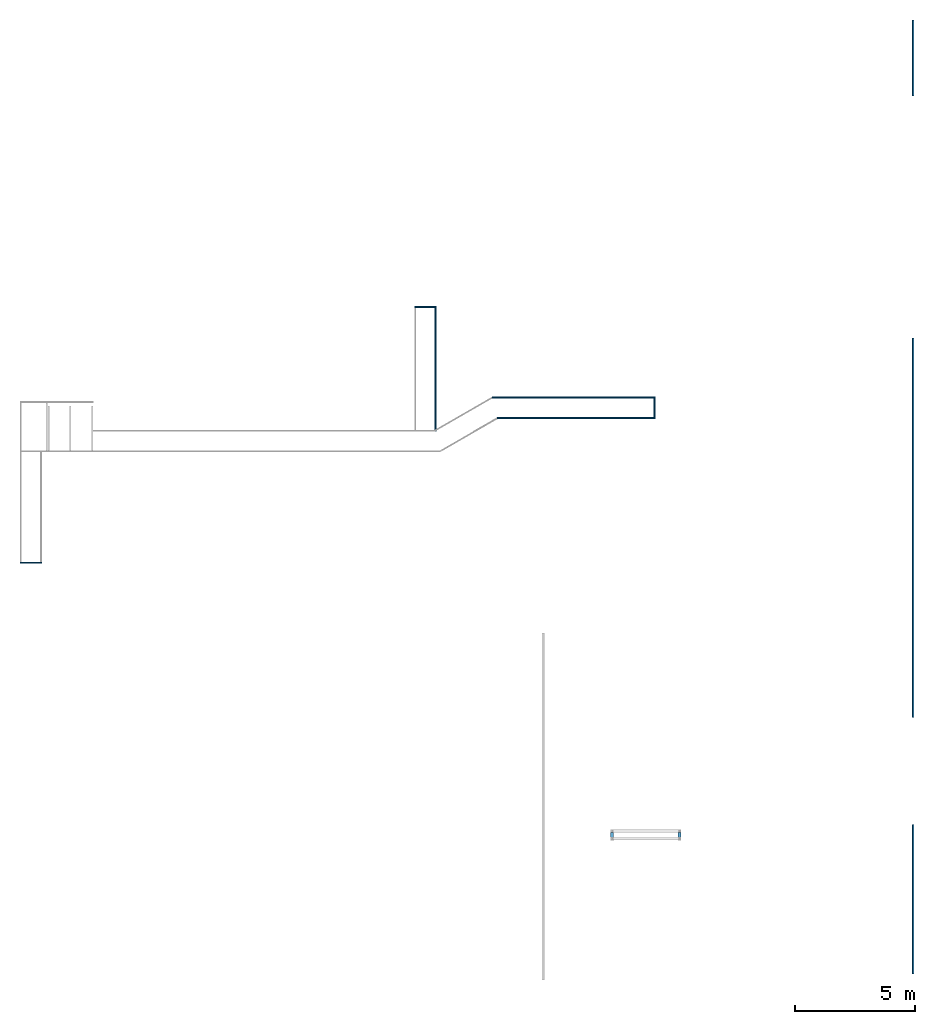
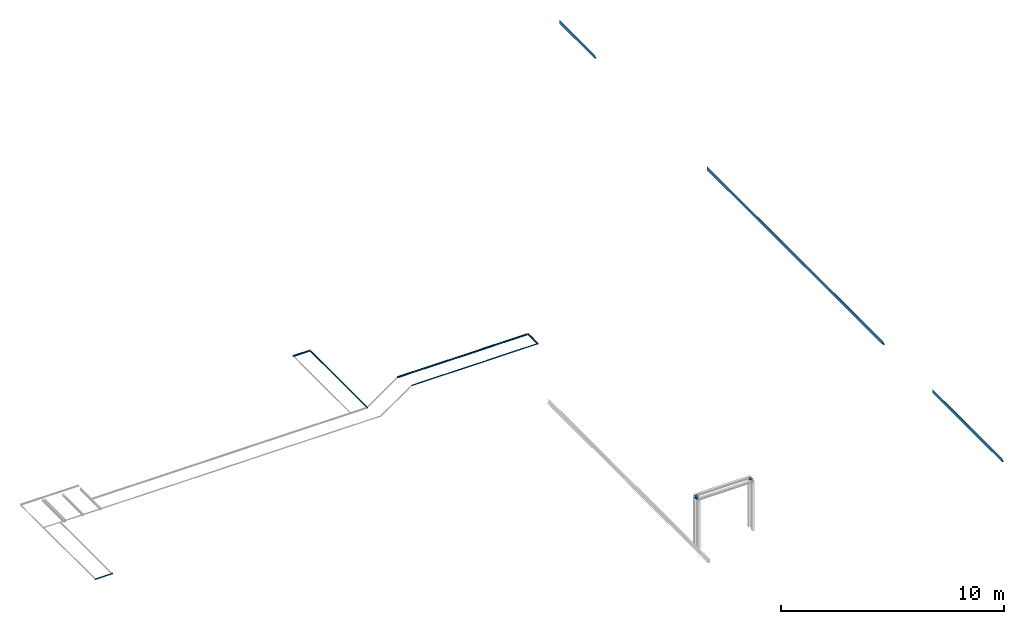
# One storey, part 3 of 3: 13 beams, 1 element without a shape of its own.
"""IFC4X3_ADD2 building model written with IfcOpenShell, lengths in millimetres."""

from ifc_helpers import new_model, si_unit, point, direction, frame, frame_2d, origin_with_axes, place, context, subcontext, project, spatial, polyline, circle_curve, trimmed, segment, composite_curve, i_section, l_section, outline, extrude, boolean, material, type_object, element, aggregate, save


model = new_model("IFC4X3_ADD2")

# Units and contexts
model_context = context("Model", 3, precision=1e-05, world=origin_with_axes(), true_north=direction((0.0, 1.0)))
body_context = subcontext(model_context, "Body", "Model", "MODEL_VIEW")
ifc_project = project(units=[si_unit("LENGTHUNIT", "METRE", prefix="MILLI"), si_unit("AREAUNIT", "SQUARE_METRE"), si_unit("VOLUMEUNIT", "CUBIC_METRE"), si_unit("PLANEANGLEUNIT", "RADIAN"), si_unit("TIMEUNIT", "SECOND"), si_unit("MASSUNIT", "GRAM")], contexts=[model_context])

# Site, building, storey
site_placement = place(None, origin_with_axes())
site = spatial("IfcSite", under=ifc_project, at=site_placement, Name="Site", CompositionType="ELEMENT")
building_placement = place(site_placement, origin_with_axes())
building = spatial("IfcBuilding", under=site, at=building_placement, Name="IFC Building Story")
storey_placement = place(building_placement, frame((0.0, 0.0, -3000.0), z_axis=(0.0, 0.0, 1.0), x_axis=(1.0, 0.0, 0.0)))
storey = spatial("IfcBuildingStorey", under=building, at=storey_placement, Name="ETAGE -1", Elevation=-3000.0)

# Assembly, beams
assembly_placement = place(storey_placement, frame((0.0, 0.0, 3000.0), z_axis=(0.0, 0.0, 1.0), x_axis=(1.0, 0.0, 0.0)))
assembly = element("IfcElementAssembly", 1, at=assembly_placement, inside=storey, Name="Assemblage Ossature:non repris au plan structure métallique", ObjectType="Assemblage Ossature:non repris au plan structure métallique", AssemblyPlace="NOTDEFINED", PredefinedType="USERDEFINED")
ifc_material = material(Name="BS_28_Métal")
beam_type = type_object("IfcBeamType", Name="L50x5", PredefinedType="NOTDEFINED")
beam_1_placement = place(assembly_placement, frame((12251.6894781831, 2675.000000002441, -25.00000000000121), z_axis=(-1.0, 0.0, 0.0), x_axis=(0.0, 1.0, 0.0)))
beam_1 = element("IfcBeam", 2, at=beam_1_placement, type_object=beam_type, material=ifc_material, Name="BS_28_SF_LE_Cornière à ailes égales:L50x5", ObjectType="L50x5", context=body_context, shape_type="CSG", body=[
    boolean("UNION", boolean("DIFFERENCE", extrude(l_section(Depth=49.99999999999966, Width=50.00000000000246, Thickness=4.999999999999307, FilletRadius=7.0, EdgeRadius=3.49999999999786, LegSlope=0.0, at=frame_2d((0.0, 5.95523630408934e-12), x_axis=(1.0, 0.0))), origin_with_axes(), (0.0, 0.0, 1.0), 900.0000000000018), extrude(outline(composite_curve([segment(polyline([(-19.28571428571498, -0.357142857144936), (-19.28571428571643, 8.142857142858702)]), True, "CONTINUOUS"), segment(trimmed(circle_curve(frame_2d((-12.28571428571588, 8.142857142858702), x_axis=(1.0, 0.0)), 7.0), [point((-19.28571428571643, 8.142857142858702))], [point((-12.28571428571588, 1.142857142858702))], True, "CARTESIAN"), True, "CONTINUOUS"), segment(polyline([(-12.28571428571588, 1.142857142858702), (22.21428571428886, 1.142857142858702)]), True, "CONTINUOUS"), segment(trimmed(circle_curve(frame_2d((22.21428571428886, -2.357142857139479), x_axis=(1.0, 0.0)), 3.499999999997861), [point((22.21428571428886, 1.142857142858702))], [point((25.71428571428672, -2.357142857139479))], False, "CARTESIAN"), True, "CONTINUOUS"), segment(polyline([(25.71428571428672, -2.357142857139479), (25.71428571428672, -3.857142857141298)]), True, "CONTINUOUS"), segment(polyline([(25.71428571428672, -3.857142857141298), (-22.78571428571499, -3.857142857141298)]), True, "CONTINUOUS"), segment(trimmed(circle_curve(frame_2d((-22.78571428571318, -0.357142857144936), x_axis=(1.0, 0.0)), 3.499999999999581), [point((-22.78571428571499, -3.857142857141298))], [point((-19.28571428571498, -0.357142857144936))], True, "CARTESIAN"), True, "CONTINUOUS")], self_intersect=False)), frame((-0.7142857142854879, -21.1428571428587, 0.0), z_axis=(0.0, 0.0, 1.0), x_axis=(1.0, 0.0, 0.0)), (0.0, 0.0, 1.0), 900.0000000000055)), extrude(outline(composite_curve([segment(polyline([(-19.28571428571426, -8.142857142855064), (-19.28571428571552, 0.357142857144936)]), True, "CONTINUOUS"), segment(trimmed(circle_curve(frame_2d((-22.78571428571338, 0.357142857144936), x_axis=(1.0, 0.0)), 3.499999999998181), [point((-19.28571428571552, 0.357142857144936))], [point((-22.78571428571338, 3.857142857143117))], True, "CARTESIAN"), True, "CONTINUOUS"), segment(polyline([(-22.78571428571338, 3.857142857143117), (25.71428571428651, 3.857142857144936)]), True, "CONTINUOUS"), segment(polyline([(25.71428571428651, 3.857142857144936), (25.7142857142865, 2.357142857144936)]), True, "CONTINUOUS"), segment(trimmed(circle_curve(frame_2d((22.2142857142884, 2.357142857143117), x_axis=(1.0, 0.0)), 3.499999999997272), [point((25.7142857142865, 2.357142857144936))], [point((22.21428571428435, -1.142857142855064))], False, "CARTESIAN"), True, "CONTINUOUS"), segment(polyline([(22.21428571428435, -1.142857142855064), (-12.2857142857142, -1.142857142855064)]), True, "CONTINUOUS"), segment(trimmed(circle_curve(frame_2d((-12.28571428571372, -8.142857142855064), x_axis=(1.0, 0.0)), 7.0), [point((-12.2857142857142, -1.142857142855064))], [point((-19.28571428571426, -8.142857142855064))], True, "CARTESIAN"), True, "CONTINUOUS")], self_intersect=False)), frame((-0.7142857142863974, 21.14285714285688, 0.0), z_axis=(0.0, 0.0, 1.0), x_axis=(1.0, 0.0, 0.0)), (0.0, 0.0, 1.0), 900.0000000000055)),
])
beam_2_placement = place(assembly_placement, frame((27786.68947815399, 13325.00000000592, -25.00000000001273), z_axis=(1.0, 0.0, 0.0), x_axis=(0.0, -1.0, 0.0)))
beam_2 = element("IfcBeam", 3, at=beam_2_placement, type_object=beam_type, material=ifc_material, Name="BS_28_SF_LE_Cornière à ailes égales:L50x5", ObjectType="L50x5", context=body_context, shape_type="CSG", body=[
    boolean("UNION", boolean("DIFFERENCE", extrude(l_section(Depth=49.99999999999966, Width=50.00000000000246, Thickness=4.999999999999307, FilletRadius=7.0, EdgeRadius=3.49999999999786, LegSlope=0.0, at=frame_2d((0.0, 5.95523630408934e-12), x_axis=(1.0, 0.0))), origin_with_axes(), (0.0, 0.0, 1.0), 900.0000000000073), extrude(outline(composite_curve([segment(polyline([(-19.28571428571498, -0.357142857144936), (-19.28571428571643, 8.142857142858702)]), True, "CONTINUOUS"), segment(trimmed(circle_curve(frame_2d((-12.28571428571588, 8.142857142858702), x_axis=(1.0, 0.0)), 7.0), [point((-19.28571428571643, 8.142857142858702))], [point((-12.28571428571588, 1.142857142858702))], True, "CARTESIAN"), True, "CONTINUOUS"), segment(polyline([(-12.28571428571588, 1.142857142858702), (22.21428571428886, 1.142857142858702)]), True, "CONTINUOUS"), segment(trimmed(circle_curve(frame_2d((22.21428571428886, -2.357142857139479), x_axis=(1.0, 0.0)), 3.499999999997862), [point((22.21428571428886, 1.142857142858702))], [point((25.71428571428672, -2.357142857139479))], False, "CARTESIAN"), True, "CONTINUOUS"), segment(polyline([(25.71428571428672, -2.357142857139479), (25.71428571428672, -3.857142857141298)]), True, "CONTINUOUS"), segment(polyline([(25.71428571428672, -3.857142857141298), (-22.78571428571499, -3.857142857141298)]), True, "CONTINUOUS"), segment(trimmed(circle_curve(frame_2d((-22.78571428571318, -0.357142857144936), x_axis=(1.0, 0.0)), 3.499999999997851), [point((-22.78571428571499, -3.857142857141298))], [point((-19.28571428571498, -0.357142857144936))], True, "CARTESIAN"), True, "CONTINUOUS")], self_intersect=False)), frame((-0.7142857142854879, -21.1428571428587, 0.0), z_axis=(0.0, 0.0, 1.0), x_axis=(1.0, 0.0, 0.0)), (0.0, 0.0, 1.0), 900.0000000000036)), extrude(outline(composite_curve([segment(polyline([(-19.28571428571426, -8.142857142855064), (-19.28571428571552, 0.357142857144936)]), True, "CONTINUOUS"), segment(trimmed(circle_curve(frame_2d((-22.78571428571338, 0.357142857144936), x_axis=(1.0, 0.0)), 3.499999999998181), [point((-19.28571428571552, 0.357142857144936))], [point((-22.78571428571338, 3.857142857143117))], True, "CARTESIAN"), True, "CONTINUOUS"), segment(polyline([(-22.78571428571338, 3.857142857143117), (25.71428571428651, 3.857142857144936)]), True, "CONTINUOUS"), segment(polyline([(25.71428571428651, 3.857142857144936), (25.7142857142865, 2.357142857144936)]), True, "CONTINUOUS"), segment(trimmed(circle_curve(frame_2d((22.2142857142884, 2.357142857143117), x_axis=(1.0, 0.0)), 3.49999999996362), [point((25.7142857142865, 2.357142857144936))], [point((22.21428571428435, -1.142857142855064))], False, "CARTESIAN"), True, "CONTINUOUS"), segment(polyline([(22.21428571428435, -1.142857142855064), (-12.2857142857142, -1.142857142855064)]), True, "CONTINUOUS"), segment(trimmed(circle_curve(frame_2d((-12.28571428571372, -8.142857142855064), x_axis=(1.0, 0.0)), 7.0), [point((-12.2857142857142, -1.142857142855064))], [point((-19.28571428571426, -8.142857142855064))], True, "CARTESIAN"), True, "CONTINUOUS")], self_intersect=False)), frame((-0.7142857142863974, 21.14285714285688, 0.0), z_axis=(0.0, 0.0, 1.0), x_axis=(1.0, 0.0, 0.0)), (0.0, 0.0, 1.0), 900.0000000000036)),
])
beam_3_placement = place(assembly_placement, frame((28661.6894781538, 13300.0, -25.0), z_axis=(0.0, -1.0, 0.0), x_axis=(-1.0, 0.0, 0.0)))
beam_3 = element("IfcBeam", 4, at=beam_3_placement, type_object=beam_type, material=ifc_material, Name="BS_28_SF_LE_Cornière à ailes égales:L50x5", ObjectType="L50x5", context=body_context, shape_type="CSG", body=[
    boolean("UNION", boolean("DIFFERENCE", extrude(l_section(Depth=49.99999999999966, Width=50.00000000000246, Thickness=4.999999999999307, FilletRadius=7.0, EdgeRadius=3.49999999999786, LegSlope=0.0, at=frame_2d((0.0, 5.95523630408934e-12), x_axis=(1.0, 0.0))), origin_with_axes(), (0.0, 0.0, 1.0), 5150.0), extrude(outline(composite_curve([segment(polyline([(-19.28571428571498, -0.357142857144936), (-19.28571428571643, 8.142857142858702)]), True, "CONTINUOUS"), segment(trimmed(circle_curve(frame_2d((-12.28571428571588, 8.142857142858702), x_axis=(1.0, 0.0)), 7.000000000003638), [point((-19.28571428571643, 8.142857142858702))], [point((-12.28571428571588, 1.142857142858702))], True, "CARTESIAN"), True, "CONTINUOUS"), segment(polyline([(-12.28571428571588, 1.142857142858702), (22.21428571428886, 1.142857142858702)]), True, "CONTINUOUS"), segment(trimmed(circle_curve(frame_2d((22.21428571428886, -2.357142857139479), x_axis=(1.0, 0.0)), 3.499999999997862), [point((22.21428571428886, 1.142857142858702))], [point((25.71428571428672, -2.357142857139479))], False, "CARTESIAN"), True, "CONTINUOUS"), segment(polyline([(25.71428571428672, -2.357142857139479), (25.71428571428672, -3.857142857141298)]), True, "CONTINUOUS"), segment(polyline([(25.71428571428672, -3.857142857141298), (-22.78571428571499, -3.857142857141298)]), True, "CONTINUOUS"), segment(trimmed(circle_curve(frame_2d((-22.78571428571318, -0.357142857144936), x_axis=(1.0, 0.0)), 3.500000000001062), [point((-22.78571428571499, -3.857142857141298))], [point((-19.28571428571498, -0.357142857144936))], True, "CARTESIAN"), True, "CONTINUOUS")], self_intersect=False)), frame((-0.7142857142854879, -21.1428571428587, 0.0), z_axis=(0.0, 0.0, 1.0), x_axis=(1.0, 0.0, 0.0)), (0.0, 0.0, 1.0), 5150.0)), extrude(outline(composite_curve([segment(polyline([(-19.28571428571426, -8.142857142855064), (-19.28571428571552, 0.357142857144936)]), True, "CONTINUOUS"), segment(trimmed(circle_curve(frame_2d((-22.78571428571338, 0.357142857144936), x_axis=(1.0, 0.0)), 3.499999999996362), [point((-19.28571428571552, 0.357142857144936))], [point((-22.78571428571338, 3.857142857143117))], True, "CARTESIAN"), True, "CONTINUOUS"), segment(polyline([(-22.78571428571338, 3.857142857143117), (25.71428571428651, 3.857142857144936)]), True, "CONTINUOUS"), segment(polyline([(25.71428571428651, 3.857142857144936), (25.7142857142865, 2.357142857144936)]), True, "CONTINUOUS"), segment(trimmed(circle_curve(frame_2d((22.2142857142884, 2.357142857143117), x_axis=(1.0, 0.0)), 3.5), [point((25.7142857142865, 2.357142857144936))], [point((22.21428571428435, -1.142857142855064))], False, "CARTESIAN"), True, "CONTINUOUS"), segment(polyline([(22.21428571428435, -1.142857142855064), (-12.2857142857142, -1.142857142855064)]), True, "CONTINUOUS"), segment(trimmed(circle_curve(frame_2d((-12.28571428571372, -8.142857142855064), x_axis=(1.0, 0.0)), 6.999999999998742), [point((-12.2857142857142, -1.142857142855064))], [point((-19.28571428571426, -8.142857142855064))], True, "CARTESIAN"), True, "CONTINUOUS")], self_intersect=False)), frame((-0.7142857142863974, 21.14285714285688, 0.0), z_axis=(0.0, 0.0, 1.0), x_axis=(1.0, 0.0, 0.0)), (0.0, 0.0, 1.0), 5150.0)),
])
beam_4_placement = place(assembly_placement, frame((31030.68017972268, 9555.000000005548, -24.99999999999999), z_axis=(1.0, 0.0, 0.0), x_axis=(0.0, -1.0, 0.0)))
beam_4 = element("IfcBeam", 5, at=beam_4_placement, type_object=beam_type, material=ifc_material, Name="BS_28_SF_LE_Cornière à ailes égales:L50x5", ObjectType="L50x5", context=body_context, shape_type="CSG", body=[
    boolean("UNION", boolean("DIFFERENCE", extrude(l_section(Depth=49.99999999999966, Width=50.00000000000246, Thickness=4.999999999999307, FilletRadius=7.0, EdgeRadius=3.49999999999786, LegSlope=0.0, at=frame_2d((0.0, 5.95523630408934e-12), x_axis=(1.0, 0.0))), origin_with_axes(), (0.0, 0.0, 1.0), 1961.0), extrude(outline(composite_curve([segment(polyline([(-19.28571428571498, -0.357142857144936), (-19.28571428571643, 8.142857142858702)]), True, "CONTINUOUS"), segment(trimmed(circle_curve(frame_2d((-12.28571428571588, 8.142857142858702), x_axis=(1.0, 0.0)), 7.0), [point((-19.28571428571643, 8.142857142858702))], [point((-12.28571428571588, 1.142857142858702))], True, "CARTESIAN"), True, "CONTINUOUS"), segment(polyline([(-12.28571428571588, 1.142857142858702), (22.21428571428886, 1.142857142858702)]), True, "CONTINUOUS"), segment(trimmed(circle_curve(frame_2d((22.21428571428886, -2.357142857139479), x_axis=(1.0, 0.0)), 3.499999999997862), [point((22.21428571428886, 1.142857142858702))], [point((25.71428571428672, -2.357142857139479))], False, "CARTESIAN"), True, "CONTINUOUS"), segment(polyline([(25.71428571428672, -2.357142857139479), (25.71428571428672, -3.857142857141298)]), True, "CONTINUOUS"), segment(polyline([(25.71428571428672, -3.857142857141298), (-22.78571428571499, -3.857142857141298)]), True, "CONTINUOUS"), segment(trimmed(circle_curve(frame_2d((-22.78571428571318, -0.357142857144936), x_axis=(1.0, 0.0)), 3.50000000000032), [point((-22.78571428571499, -3.857142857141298))], [point((-19.28571428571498, -0.357142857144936))], True, "CARTESIAN"), True, "CONTINUOUS")], self_intersect=False)), frame((-0.7142857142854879, -21.1428571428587, 0.0), z_axis=(0.0, 0.0, 1.0), x_axis=(1.0, 0.0, 0.0)), (0.0, 0.0, 1.0), 1961.0)), extrude(outline(composite_curve([segment(polyline([(-19.28571428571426, -8.142857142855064), (-19.28571428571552, 0.357142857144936)]), True, "CONTINUOUS"), segment(trimmed(circle_curve(frame_2d((-22.78571428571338, 0.357142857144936), x_axis=(1.0, 0.0)), 3.499999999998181), [point((-19.28571428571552, 0.357142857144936))], [point((-22.78571428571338, 3.857142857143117))], True, "CARTESIAN"), True, "CONTINUOUS"), segment(polyline([(-22.78571428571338, 3.857142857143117), (25.71428571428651, 3.857142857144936)]), True, "CONTINUOUS"), segment(polyline([(25.71428571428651, 3.857142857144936), (25.7142857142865, 2.357142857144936)]), True, "CONTINUOUS"), segment(trimmed(circle_curve(frame_2d((22.2142857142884, 2.357142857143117), x_axis=(1.0, 0.0)), 3.5), [point((25.7142857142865, 2.357142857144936))], [point((22.21428571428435, -1.142857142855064))], False, "CARTESIAN"), True, "CONTINUOUS"), segment(polyline([(22.21428571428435, -1.142857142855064), (-12.2857142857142, -1.142857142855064)]), True, "CONTINUOUS"), segment(trimmed(circle_curve(frame_2d((-12.28571428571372, -8.142857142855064), x_axis=(1.0, 0.0)), 6.999999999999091), [point((-12.2857142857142, -1.142857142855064))], [point((-19.28571428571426, -8.142857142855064))], True, "CARTESIAN"), True, "CONTINUOUS")], self_intersect=False)), frame((-0.7142857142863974, 21.14285714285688, 0.0), z_axis=(0.0, 0.0, 1.0), x_axis=(1.0, 0.0, 0.0)), (0.0, 0.0, 1.0), 1961.0)),
])
beam_5_placement = place(assembly_placement, frame((31241.6894781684, 8705.000000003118, -24.9999999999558), z_axis=(1.0, 0.0, 0.0), x_axis=(0.0, 0.0, 1.0)))
beam_5 = element("IfcBeam", 6, at=beam_5_placement, type_object=beam_type, material=ifc_material, Name="BS_28_SF_LE_Cornière à ailes égales:L50x5", ObjectType="L50x5", context=body_context, shape_type="CSG", body=[
    boolean("UNION", boolean("DIFFERENCE", extrude(l_section(Depth=49.99999999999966, Width=50.00000000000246, Thickness=4.999999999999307, FilletRadius=7.0, EdgeRadius=3.49999999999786, LegSlope=0.0, at=frame_2d((0.0, 5.95523630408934e-12), x_axis=(1.0, 0.0))), origin_with_axes(), (0.0, 0.0, 1.0), 1750.0), extrude(outline(composite_curve([segment(trimmed(circle_curve(frame_2d((-22.78571428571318, -0.357142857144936), x_axis=(1.0, 0.0)), 3.500000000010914), [point((-22.78571428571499, -3.857142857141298))], [point((-19.28571428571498, -0.357142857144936))], True, "CARTESIAN"), True, "CONTINUOUS"), segment(polyline([(-19.28571428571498, -0.357142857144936), (-19.28571428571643, 8.142857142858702)]), True, "CONTINUOUS"), segment(trimmed(circle_curve(frame_2d((-12.28571428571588, 8.142857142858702), x_axis=(1.0, 0.0)), 7.0), [point((-19.28571428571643, 8.142857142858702))], [point((-12.28571428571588, 1.142857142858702))], True, "CARTESIAN"), True, "CONTINUOUS"), segment(polyline([(-12.28571428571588, 1.142857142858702), (22.21428571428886, 1.142857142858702)]), True, "CONTINUOUS"), segment(trimmed(circle_curve(frame_2d((22.21428571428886, -2.357142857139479), x_axis=(1.0, 0.0)), 3.499999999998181), [point((22.21428571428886, 1.142857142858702))], [point((25.71428571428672, -2.357142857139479))], False, "CARTESIAN"), True, "CONTINUOUS"), segment(polyline([(25.71428571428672, -2.357142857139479), (25.71428571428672, -3.857142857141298)]), True, "CONTINUOUS"), segment(polyline([(25.71428571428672, -3.857142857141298), (-22.78571428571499, -3.857142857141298)]), True, "CONTINUOUS")], self_intersect=False)), frame((-0.7142857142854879, -21.1428571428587, 0.0), z_axis=(0.0, 0.0, 1.0), x_axis=(1.0, 0.0, 0.0)), (0.0, 0.0, 1.0), 1749.999999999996)), extrude(outline(composite_curve([segment(polyline([(-19.28571428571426, -8.142857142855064), (-19.28571428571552, 0.357142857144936)]), True, "CONTINUOUS"), segment(trimmed(circle_curve(frame_2d((-22.78571428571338, 0.357142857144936), x_axis=(1.0, 0.0)), 3.499999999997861), [point((-19.28571428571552, 0.357142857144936))], [point((-22.78571428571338, 3.857142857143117))], True, "CARTESIAN"), True, "CONTINUOUS"), segment(polyline([(-22.78571428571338, 3.857142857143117), (25.71428571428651, 3.857142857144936)]), True, "CONTINUOUS"), segment(polyline([(25.71428571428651, 3.857142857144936), (25.7142857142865, 2.357142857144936)]), True, "CONTINUOUS"), segment(trimmed(circle_curve(frame_2d((22.2142857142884, 2.357142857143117), x_axis=(1.0, 0.0)), 3.500000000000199), [point((25.7142857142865, 2.357142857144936))], [point((22.21428571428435, -1.142857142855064))], False, "CARTESIAN"), True, "CONTINUOUS"), segment(polyline([(22.21428571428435, -1.142857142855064), (-12.2857142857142, -1.142857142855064)]), True, "CONTINUOUS"), segment(trimmed(circle_curve(frame_2d((-12.28571428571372, -8.142857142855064), x_axis=(1.0, 0.0)), 7.0), [point((-12.2857142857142, -1.142857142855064))], [point((-19.28571428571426, -8.142857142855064))], True, "CARTESIAN"), True, "CONTINUOUS")], self_intersect=False)), frame((-0.7142857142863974, 21.14285714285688, 0.0), z_axis=(0.0, 0.0, 1.0), x_axis=(1.0, 0.0, 0.0)), (0.0, 0.0, 1.0), 1749.999999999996)),
])
beam_6_placement = place(assembly_placement, frame((33011.68482894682, 9555.000000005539, -24.99999999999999), z_axis=(1.0, 0.0, 0.0), x_axis=(0.0, -1.0, 0.0)))
beam_6 = element("IfcBeam", 7, at=beam_6_placement, type_object=beam_type, material=ifc_material, Name="BS_28_SF_LE_Cornière à ailes égales:L50x5", ObjectType="L50x5", context=body_context, shape_type="CSG", body=[
    boolean("UNION", boolean("DIFFERENCE", extrude(l_section(Depth=49.99999999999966, Width=50.00000000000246, Thickness=4.999999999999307, FilletRadius=7.0, EdgeRadius=3.49999999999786, LegSlope=0.0, at=frame_2d((0.0, 5.95523630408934e-12), x_axis=(1.0, 0.0))), origin_with_axes(), (0.0, 0.0, 1.0), 4750.0), extrude(outline(composite_curve([segment(polyline([(-19.28571428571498, -0.357142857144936), (-19.28571428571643, 8.142857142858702)]), True, "CONTINUOUS"), segment(trimmed(circle_curve(frame_2d((-12.28571428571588, 8.142857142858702), x_axis=(1.0, 0.0)), 7.0), [point((-19.28571428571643, 8.142857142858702))], [point((-12.28571428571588, 1.142857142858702))], True, "CARTESIAN"), True, "CONTINUOUS"), segment(polyline([(-12.28571428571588, 1.142857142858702), (22.21428571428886, 1.142857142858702)]), True, "CONTINUOUS"), segment(trimmed(circle_curve(frame_2d((22.21428571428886, -2.357142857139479), x_axis=(1.0, 0.0)), 3.499999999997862), [point((22.21428571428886, 1.142857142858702))], [point((25.71428571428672, -2.357142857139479))], False, "CARTESIAN"), True, "CONTINUOUS"), segment(polyline([(25.71428571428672, -2.357142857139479), (25.71428571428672, -3.857142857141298)]), True, "CONTINUOUS"), segment(polyline([(25.71428571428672, -3.857142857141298), (-22.78571428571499, -3.857142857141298)]), True, "CONTINUOUS"), segment(trimmed(circle_curve(frame_2d((-22.78571428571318, -0.357142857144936), x_axis=(1.0, 0.0)), 3.50000000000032), [point((-22.78571428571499, -3.857142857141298))], [point((-19.28571428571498, -0.357142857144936))], True, "CARTESIAN"), True, "CONTINUOUS")], self_intersect=False)), frame((-0.7142857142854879, -21.1428571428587, 0.0), z_axis=(0.0, 0.0, 1.0), x_axis=(1.0, 0.0, 0.0)), (0.0, 0.0, 1.0), 4750.0)), extrude(outline(composite_curve([segment(polyline([(-19.28571428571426, -8.142857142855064), (-19.28571428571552, 0.357142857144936)]), True, "CONTINUOUS"), segment(trimmed(circle_curve(frame_2d((-22.78571428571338, 0.357142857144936), x_axis=(1.0, 0.0)), 3.499999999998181), [point((-19.28571428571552, 0.357142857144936))], [point((-22.78571428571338, 3.857142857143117))], True, "CARTESIAN"), True, "CONTINUOUS"), segment(polyline([(-22.78571428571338, 3.857142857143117), (25.71428571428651, 3.857142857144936)]), True, "CONTINUOUS"), segment(polyline([(25.71428571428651, 3.857142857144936), (25.7142857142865, 2.357142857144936)]), True, "CONTINUOUS"), segment(trimmed(circle_curve(frame_2d((22.2142857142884, 2.357142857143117), x_axis=(1.0, 0.0)), 3.5), [point((25.7142857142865, 2.357142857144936))], [point((22.21428571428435, -1.142857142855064))], False, "CARTESIAN"), True, "CONTINUOUS"), segment(polyline([(22.21428571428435, -1.142857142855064), (-12.2857142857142, -1.142857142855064)]), True, "CONTINUOUS"), segment(trimmed(circle_curve(frame_2d((-12.28571428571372, -8.142857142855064), x_axis=(1.0, 0.0)), 6.999999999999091), [point((-12.2857142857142, -1.142857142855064))], [point((-19.28571428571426, -8.142857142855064))], True, "CARTESIAN"), True, "CONTINUOUS")], self_intersect=False)), frame((-0.7142857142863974, 21.14285714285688, 0.0), z_axis=(0.0, 0.0, 1.0), x_axis=(1.0, 0.0, 0.0)), (0.0, 0.0, 1.0), 4750.0)),
])
beam_7_placement = place(assembly_placement, frame((33011.6894781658, 8705.000000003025, -24.99999999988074), z_axis=(1.0, 0.0, 0.0), x_axis=(0.0, 0.0, 1.0)))
beam_7 = element("IfcBeam", 8, at=beam_7_placement, type_object=beam_type, material=ifc_material, Name="BS_28_SF_LE_Cornière à ailes égales:L50x5", ObjectType="L50x5", context=body_context, shape_type="CSG", body=[
    boolean("UNION", boolean("DIFFERENCE", extrude(l_section(Depth=49.99999999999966, Width=50.00000000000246, Thickness=4.999999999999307, FilletRadius=7.0, EdgeRadius=3.49999999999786, LegSlope=0.0, at=frame_2d((0.0, 5.95523630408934e-12), x_axis=(1.0, 0.0))), origin_with_axes(), (0.0, 0.0, 1.0), 4750.0), extrude(outline(composite_curve([segment(trimmed(circle_curve(frame_2d((-22.78571428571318, -0.357142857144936), x_axis=(1.0, 0.0)), 3.500000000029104), [point((-22.78571428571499, -3.857142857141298))], [point((-19.28571428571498, -0.357142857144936))], True, "CARTESIAN"), True, "CONTINUOUS"), segment(polyline([(-19.28571428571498, -0.357142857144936), (-19.28571428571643, 8.142857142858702)]), True, "CONTINUOUS"), segment(trimmed(circle_curve(frame_2d((-12.28571428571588, 8.142857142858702), x_axis=(1.0, 0.0)), 7.0), [point((-19.28571428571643, 8.142857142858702))], [point((-12.28571428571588, 1.142857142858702))], True, "CARTESIAN"), True, "CONTINUOUS"), segment(polyline([(-12.28571428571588, 1.142857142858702), (22.21428571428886, 1.142857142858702)]), True, "CONTINUOUS"), segment(trimmed(circle_curve(frame_2d((22.21428571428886, -2.357142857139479), x_axis=(1.0, 0.0)), 3.499999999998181), [point((22.21428571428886, 1.142857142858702))], [point((25.71428571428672, -2.357142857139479))], False, "CARTESIAN"), True, "CONTINUOUS"), segment(polyline([(25.71428571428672, -2.357142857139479), (25.71428571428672, -3.857142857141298)]), True, "CONTINUOUS"), segment(polyline([(25.71428571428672, -3.857142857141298), (-22.78571428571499, -3.857142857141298)]), True, "CONTINUOUS")], self_intersect=False)), frame((-0.7142857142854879, -21.1428571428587, 0.0), z_axis=(0.0, 0.0, 1.0), x_axis=(1.0, 0.0, 0.0)), (0.0, 0.0, 1.0), 4750.0)), extrude(outline(composite_curve([segment(polyline([(-19.28571428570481, -8.142857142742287), (-19.28571428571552, 0.357142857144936)]), True, "CONTINUOUS"), segment(trimmed(circle_curve(frame_2d((-22.78571428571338, 0.357142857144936), x_axis=(1.0, 0.0)), 3.499999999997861), [point((-19.28571428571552, 0.357142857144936))], [point((-22.78571428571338, 3.857142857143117))], True, "CARTESIAN"), True, "CONTINUOUS"), segment(polyline([(-22.78571428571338, 3.857142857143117), (25.71428571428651, 3.857142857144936)]), True, "CONTINUOUS"), segment(polyline([(25.71428571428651, 3.857142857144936), (25.7142857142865, 2.357142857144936)]), True, "CONTINUOUS"), segment(trimmed(circle_curve(frame_2d((22.2142857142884, 2.357142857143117), x_axis=(1.0, 0.0)), 3.500000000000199), [point((25.7142857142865, 2.357142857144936))], [point((22.21428571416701, -1.14285714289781))], False, "CARTESIAN"), True, "CONTINUOUS"), segment(polyline([(22.21428571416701, -1.14285714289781), (-12.2857142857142, -1.142857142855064)]), True, "CONTINUOUS"), segment(trimmed(circle_curve(frame_2d((-12.28571428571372, -8.142857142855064), x_axis=(1.0, 0.0)), 7.000000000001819), [point((-12.2857142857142, -1.142857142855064))], [point((-19.28571428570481, -8.142857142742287))], True, "CARTESIAN"), True, "CONTINUOUS")], self_intersect=False)), frame((-0.7142857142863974, 21.14285714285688, 0.0), z_axis=(0.0, 0.0, 1.0), x_axis=(1.0, 0.0, 0.0)), (0.0, 0.0, 1.0), 4750.0)),
])
beam_8_placement = place(assembly_placement, frame((37786.68947816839, 9580.0, -25.0), z_axis=(0.0, -1.0, 0.0), x_axis=(-1.0, 0.0, 0.0)))
beam_8 = element("IfcBeam", 9, at=beam_8_placement, type_object=beam_type, material=ifc_material, Name="BS_28_SF_LE_Cornière à ailes égales:L50x5", ObjectType="L50x5", context=body_context, shape_type="CSG", body=[
    boolean("UNION", boolean("DIFFERENCE", extrude(l_section(Depth=49.99999999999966, Width=50.00000000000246, Thickness=4.999999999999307, FilletRadius=7.0, EdgeRadius=3.49999999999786, LegSlope=0.0, at=frame_2d((0.0, 5.95523630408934e-12), x_axis=(1.0, 0.0))), origin_with_axes(), (0.0, 0.0, 1.0), 900.0), extrude(outline(composite_curve([segment(polyline([(-19.28571428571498, -0.357142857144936), (-19.28571428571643, 8.142857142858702)]), True, "CONTINUOUS"), segment(trimmed(circle_curve(frame_2d((-12.28571428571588, 8.142857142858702), x_axis=(1.0, 0.0)), 7.0), [point((-19.28571428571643, 8.142857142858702))], [point((-12.28571428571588, 1.142857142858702))], True, "CARTESIAN"), True, "CONTINUOUS"), segment(polyline([(-12.28571428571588, 1.142857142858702), (22.21428571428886, 1.142857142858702)]), True, "CONTINUOUS"), segment(trimmed(circle_curve(frame_2d((22.21428571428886, -2.357142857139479), x_axis=(1.0, 0.0)), 3.499999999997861), [point((22.21428571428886, 1.142857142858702))], [point((25.71428571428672, -2.357142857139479))], False, "CARTESIAN"), True, "CONTINUOUS"), segment(polyline([(25.71428571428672, -2.357142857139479), (25.71428571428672, -3.857142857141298)]), True, "CONTINUOUS"), segment(polyline([(25.71428571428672, -3.857142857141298), (-22.78571428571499, -3.857142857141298)]), True, "CONTINUOUS"), segment(trimmed(circle_curve(frame_2d((-22.78571428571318, -0.357142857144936), x_axis=(1.0, 0.0)), 3.500000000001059), [point((-22.78571428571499, -3.857142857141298))], [point((-19.28571428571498, -0.357142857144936))], True, "CARTESIAN"), True, "CONTINUOUS")], self_intersect=False)), frame((-0.7142857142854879, -21.1428571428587, 0.0), z_axis=(0.0, 0.0, 1.0), x_axis=(1.0, 0.0, 0.0)), (0.0, 0.0, 1.0), 900.0)), extrude(outline(composite_curve([segment(polyline([(-19.28571428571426, -8.142857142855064), (-19.28571428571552, 0.357142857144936)]), True, "CONTINUOUS"), segment(trimmed(circle_curve(frame_2d((-22.78571428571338, 0.357142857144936), x_axis=(1.0, 0.0)), 3.5), [point((-19.28571428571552, 0.357142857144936))], [point((-22.78571428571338, 3.857142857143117))], True, "CARTESIAN"), True, "CONTINUOUS"), segment(polyline([(-22.78571428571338, 3.857142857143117), (25.71428571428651, 3.857142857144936)]), True, "CONTINUOUS"), segment(polyline([(25.71428571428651, 3.857142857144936), (25.7142857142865, 2.357142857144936)]), True, "CONTINUOUS"), segment(trimmed(circle_curve(frame_2d((22.2142857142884, 2.357142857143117), x_axis=(1.0, 0.0)), 3.5), [point((25.7142857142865, 2.357142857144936))], [point((22.21428571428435, -1.142857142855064))], False, "CARTESIAN"), True, "CONTINUOUS"), segment(polyline([(22.21428571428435, -1.142857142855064), (-12.2857142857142, -1.142857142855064)]), True, "CONTINUOUS"), segment(trimmed(circle_curve(frame_2d((-12.28571428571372, -8.142857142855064), x_axis=(1.0, 0.0)), 6.999999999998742), [point((-12.2857142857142, -1.142857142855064))], [point((-19.28571428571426, -8.142857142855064))], True, "CARTESIAN"), True, "CONTINUOUS")], self_intersect=False)), frame((-0.7142857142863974, 21.14285714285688, 0.0), z_axis=(0.0, 0.0, 1.0), x_axis=(1.0, 0.0, 0.0)), (0.0, 0.0, 1.0), 900.0)),
])
beam_9_placement = place(assembly_placement, frame((36016.68947817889, -8555.83973986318, 2697.0), z_axis=(0.0, -1.0, 0.0), x_axis=(1.0, 0.0, 0.0)))
beam_9 = element("IfcBeam", 10, at=beam_9_placement, material=ifc_material, Name="BS_28_SF_LE_HE-A:HEA120", ObjectType="HEA120 2", context=body_context, shape_type="SweptSolid", body=[
    extrude(i_section(OverallWidth=119.999999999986, OverallDepth=114.0, WebThickness=5.00000000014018, FlangeThickness=8.0, FilletRadius=12.0, at=frame_2d((0.0, 5.95523630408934e-12), x_axis=(1.0, 0.0))), origin_with_axes(), (0.0, 0.0, 1.0), 206.0000000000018),
])
beam_10_placement = place(assembly_placement, frame((38826.6894781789, -8555.83973986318, 2697.0), z_axis=(0.0, -1.0, 0.0), x_axis=(1.0, 0.0, 0.0)))
beam_10 = element("IfcBeam", 11, at=beam_10_placement, material=ifc_material, Name="BS_28_SF_LE_HE-A:HEA120", ObjectType="HEA120 2", context=body_context, shape_type="SweptSolid", body=[
    extrude(i_section(OverallWidth=119.999999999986, OverallDepth=114.0, WebThickness=5.00000000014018, FlangeThickness=8.0, FilletRadius=12.0, at=frame_2d((0.0, 5.95523630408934e-12), x_axis=(1.0, 0.0))), origin_with_axes(), (0.0, 0.0, 1.0), 206.0000000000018),
])
beam_11_placement = place(assembly_placement, frame((48551.68947815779, -8230.050043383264, 3870.0), z_axis=(0.0, -1.0, 0.0), x_axis=(1.0, 0.0, 0.0)))
beam_11 = element("IfcBeam", 12, at=beam_11_placement, material=ifc_material, Name="BS_28_SF_LE_Cornière à ailes inégales:L200x100x10", ObjectType="L200x100x10", context=body_context, shape_type="SweptSolid", body=[
    extrude(l_section(Depth=199.9999999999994, Width=99.99999999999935, Thickness=9.99999999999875, FilletRadius=14.9999999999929, EdgeRadius=7.49999999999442, LegSlope=0.0, at=frame_2d((0.0, 5.95523630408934e-12), x_axis=(1.0, 0.0))), origin_with_axes(), (0.0, 0.0, 1.0), 6229.9),
])
beam_12_placement = place(assembly_placement, frame((48551.68947815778, 12034.95004334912, 3800.0), z_axis=(0.0, -1.0, 0.0), x_axis=(1.0, 0.0, 0.0)))
beam_12 = element("IfcBeam", 13, at=beam_12_placement, material=ifc_material, Name="BS_28_SF_LE_Cornière à ailes inégales:L200x100x10", ObjectType="L200x100x10", context=body_context, shape_type="SweptSolid", body=[
    extrude(l_section(Depth=199.9999999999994, Width=99.99999999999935, Thickness=9.99999999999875, FilletRadius=14.9999999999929, EdgeRadius=7.49999999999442, LegSlope=0.0, at=frame_2d((0.0, 5.95523630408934e-12), x_axis=(1.0, 0.0))), origin_with_axes(), (0.0, 0.0, 1.0), 15809.9),
])
beam_13_placement = place(assembly_placement, frame((48551.6894781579, 25283.9999999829, 3800.0), z_axis=(0.0, -1.0, 0.0), x_axis=(1.0, 0.0, 0.0)))
beam_13 = element("IfcBeam", 14, at=beam_13_placement, material=ifc_material, Name="BS_28_SF_LE_Cornière à ailes inégales:L200x100x10", ObjectType="L200x100x10", context=body_context, shape_type="SweptSolid", body=[
    extrude(l_section(Depth=199.9999999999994, Width=99.99999999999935, Thickness=9.99999999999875, FilletRadius=14.9999999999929, EdgeRadius=7.49999999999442, LegSlope=0.0, at=frame_2d((0.0, 5.95523630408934e-12), x_axis=(1.0, 0.0))), origin_with_axes(), (0.0, 0.0, 1.0), 3164.0),
])
aggregate(assembly, [beam_9, beam_10, beam_11, beam_12, beam_1, beam_2, beam_3, beam_4, beam_5, beam_6, beam_7, beam_8, beam_13])

save(model, "model.ifc")
